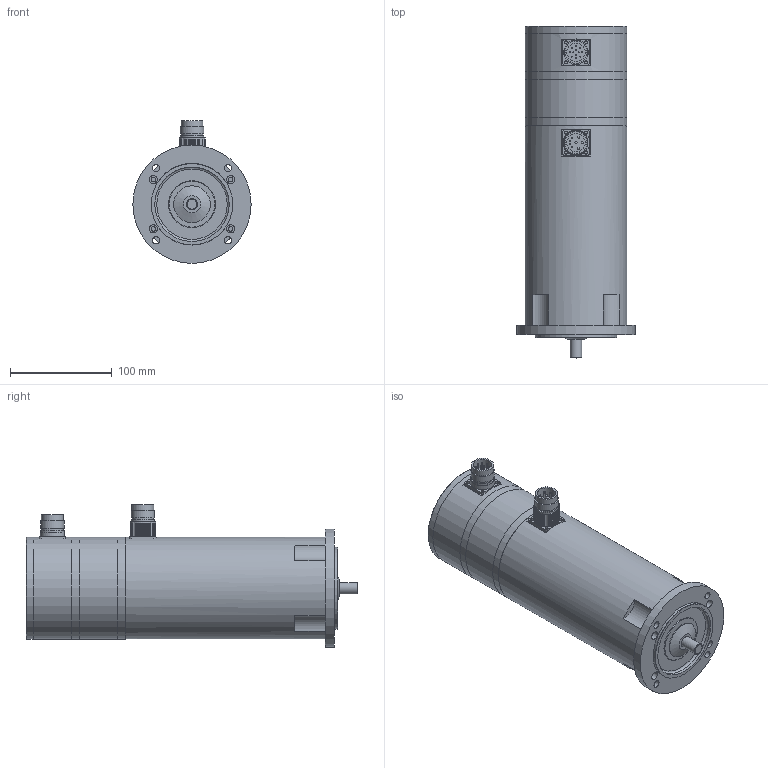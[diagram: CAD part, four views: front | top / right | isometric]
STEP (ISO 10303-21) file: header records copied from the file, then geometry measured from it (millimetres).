
FILE_DESCRIPTION(/* description */ (''),/* implementation_level */ '2;1');
FILE_NAME(/* name */ 'ksa_3x12e_mc_ixx',/* time_stamp */ '2007-03-13T11:03:04+01:00',/* author */ (''),/* organization */ (''),/* preprocessor_version */ 'ST-DEVELOPER v8',/* originating_system */ 'UNIGRAPHICS SOLUTIONS - UNIGRAPHICS 18.0',/* authorisation */ '');
FILE_SCHEMA (('AUTOMOTIVE_DESIGN { 1 2 10303 214 0 1 1 1 }'));
Length unit declared in the file: millimetre
Products named in the file (13): 014261_0; 064304_0; 089284_0; 113058_0; 089283_0; 113057_0; 014260_0; 06331101_0; DIN3760_org_A15x30x7_0; Rotor_SA 34.. E_0; Gehaeuse SA 34.. E_0; 113044_0; KSA328_E-MC-I27_0
Assembly tree (12 placements, depth 2):
  KSA328_E-MC-I27_0
    113044_0
    Gehaeuse SA 34.. E_0
    Rotor_SA 34.. E_0
    DIN3760_org_A15x30x7_0
    06331101_0
    014260_0
    113057_0
    089283_0
    113058_0
    089284_0
    064304_0
    014261_0
Bounding box: 116 x 325.5 x 140 mm (x, y, z)
Volume: 1034742.9 mm3; surface area: 274949 mm2
Topology: 12 solids, 12 shells, 274 faces, 675 edges, 434 vertices
Faces by surface type: cylinder 149, plane 80, sphere 20, torus 15, cone 10
Full cylindrical faces by diameter (mm): 1 x16, 2 x4, 2.7 x8, 4.5 x4, 7 x4, 8 x4, 10.52 x1, 10.9 x1, 11 x1, 15 x2, 15.5 x1, 18 x2, 20 x4, 21 x2, 21.5 x2, 23 x4, 24 x1, 25 x1, 27 x1, 30 x3, 35 x1, 36 x1, 45 x1, 73 x1, 74 x1, 80 x3, 81 x2, 100 x6, 116 x1
Entity records: 7358 total; most frequent: DIRECTION 1370, CARTESIAN_POINT 1173, ORIENTED_EDGE 910, AXIS2_PLACEMENT_3D 630, EDGE_LOOP 482, EDGE_CURVE 455, VERTEX_POINT 365, CIRCLE 343
